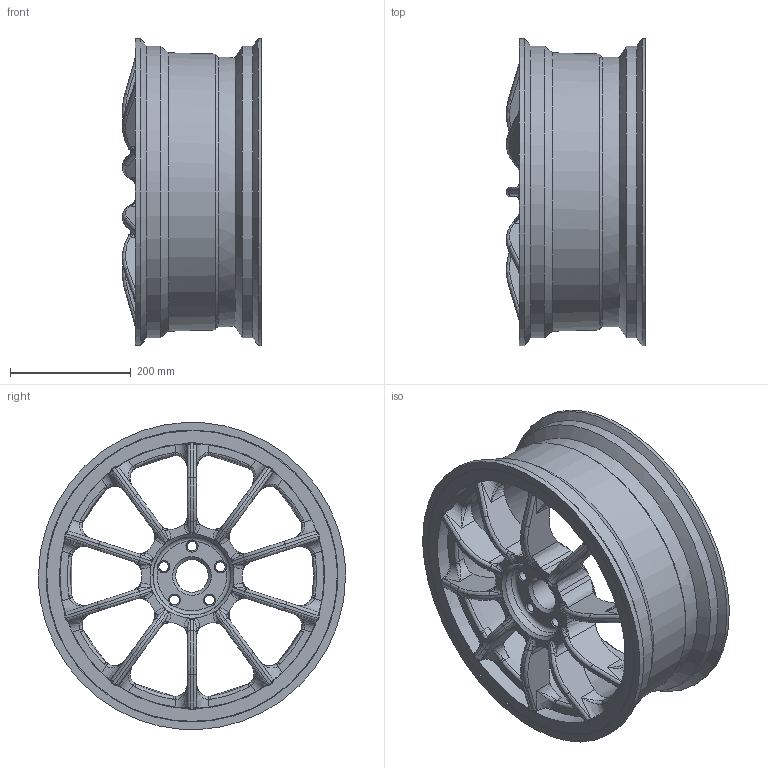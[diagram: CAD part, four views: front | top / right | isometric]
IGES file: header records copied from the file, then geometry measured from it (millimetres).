
Global section: file name: rims; native system: Autodesk Inventor 2015; preprocessor: unknown; author: Adam; date: 20170517.131937; units: millimetre
Bounding box: 229.82 x 508 x 507.34 mm (x, y, z)
Volume: 11232522.5 mm3; surface area: 1020866.8 mm2
Topology: 1 solids, 1 shells, 528 faces, 1436 edges, 869 vertices
Faces by surface type: bspline 528
